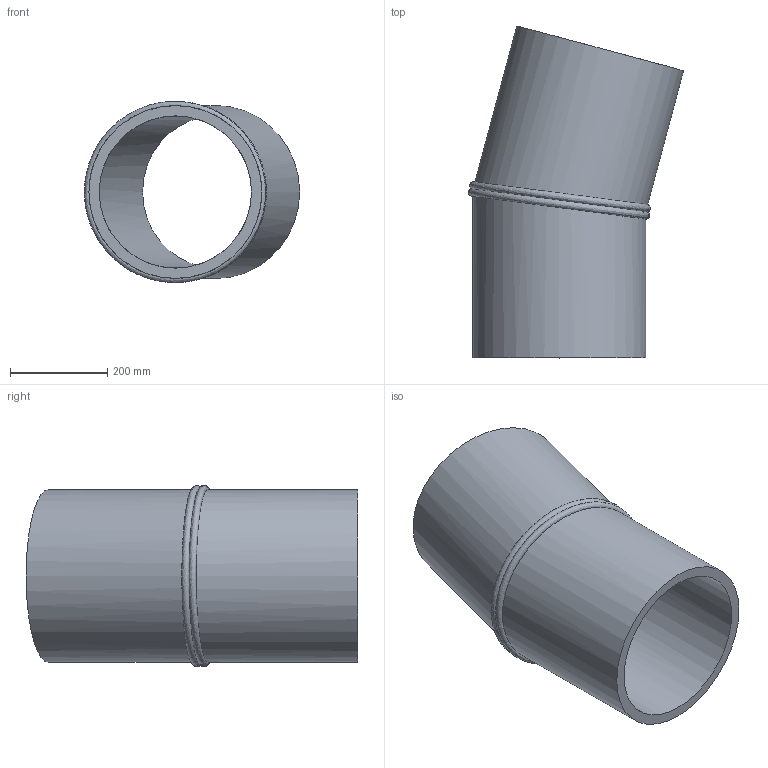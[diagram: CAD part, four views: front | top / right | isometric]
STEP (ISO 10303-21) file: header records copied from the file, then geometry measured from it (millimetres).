
FILE_DESCRIPTION(/* description */ ('Unknown'),/* implementation_level */ '2;1');
FILE_NAME(/* name */ 'Curva 15° a settore DE355 SDR17',/* time_stamp */ '2022-07-22T16:52:09+02:00',/* author */ ('Unknown'),/* organization */ ('Unknown'),/* preprocessor_version */ 'ST-DEVELOPER v18.102',/* originating_system */ 'Solid Edge',/* authorisation */ 'Unknown');
FILE_SCHEMA (('AUTOMOTIVE_DESIGN {1 0 10303 214 3 1 1}'));
Length unit declared in the file: millimetre
Products named in the file (2): Curva 15° a settore DE355 SDR17; Tubo x Gomito 15° DE355 SDR17
Assembly tree (2 placements, depth 2):
  Curva 15° a settore DE355 SDR17
    Tubo x Gomito 15° DE355 SDR17  x2
Bounding box: 442.03 x 681.66 x 371.95 mm (x, y, z)
Volume: 14549021.6 mm3; surface area: 1471441.7 mm2
Topology: 2 solids, 2 shells, 10 faces, 20 edges, 14 vertices
Faces by surface type: cylinder 4, plane 4, bspline 2
Full cylindrical faces by diameter (mm): 312.8 x2, 355 x2
Entity records: 759 total; most frequent: CARTESIAN_POINT 622, DIRECTION 20, ORIENTED_EDGE 10, EDGE_LOOP 10, FACE_BOUND 10, AXIS2_PLACEMENT_3D 10, EDGE_CURVE 5, VERTEX_POINT 5
